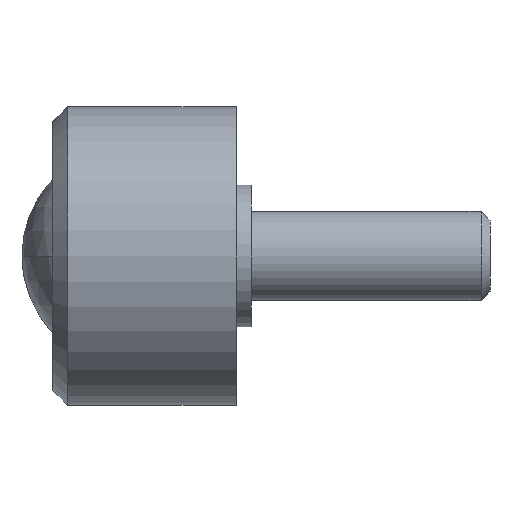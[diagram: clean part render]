
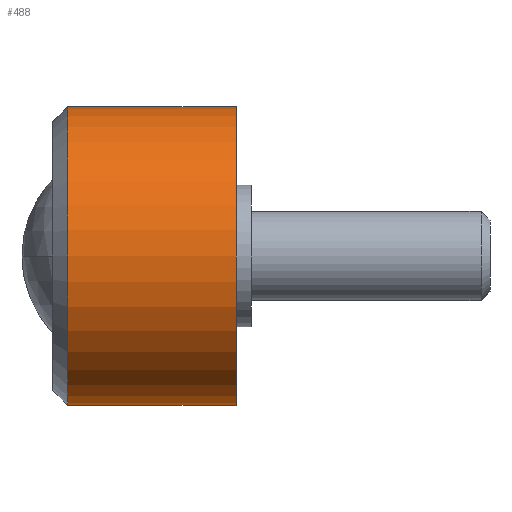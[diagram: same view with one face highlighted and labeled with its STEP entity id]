
A CAD part, left-side view. The second image highlights one B-rep face of the part: STEP entity #488.
In plain terms, the highlighted cylindrical face has radius 20 mm (diameter 40 mm), a partial arc.
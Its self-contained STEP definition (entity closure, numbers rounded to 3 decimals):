
#19 = DIRECTION ( 'NONE',  ( 0., 0., -1. ) ) ;
#44 = VECTOR ( 'NONE', #445, 1000. ) ;
#59 = EDGE_CURVE ( 'NONE', #77, #531, #553, .T. ) ;
#77 = VERTEX_POINT ( 'NONE', #571 ) ;
#83 = EDGE_CURVE ( 'NONE', #312, #77, #384, .T. ) ;
#119 = EDGE_LOOP ( 'NONE', ( #348, #779, #425, #701 ) ) ;
#144 = DIRECTION ( 'NONE',  ( 0., -1., 0. ) ) ;
#151 = EDGE_CURVE ( 'NONE', #468, #531, #519, .T. ) ;
#219 = CARTESIAN_POINT ( 'NONE',  ( 0., 0., -20. ) ) ;
#261 = DIRECTION ( 'NONE',  ( 0., -1., 0. ) ) ;
#272 = CARTESIAN_POINT ( 'NONE',  ( 0., 0., 20. ) ) ;
#301 = FACE_OUTER_BOUND ( 'NONE', #119, .T. ) ;
#312 = VERTEX_POINT ( 'NONE', #569 ) ;
#324 = EDGE_CURVE ( 'NONE', #312, #468, #579, .T. ) ;
#331 = AXIS2_PLACEMENT_3D ( 'NONE', #673, #144, #436 ) ;
#348 = ORIENTED_EDGE ( 'NONE', *, *, #83, .F. ) ;
#356 = AXIS2_PLACEMENT_3D ( 'NONE', #420, #713, #470 ) ;
#384 = LINE ( 'NONE', #272, #628 ) ;
#420 = CARTESIAN_POINT ( 'NONE',  ( 0., 0., 0. ) ) ;
#425 = ORIENTED_EDGE ( 'NONE', *, *, #151, .T. ) ;
#436 = DIRECTION ( 'NONE',  ( 0., 0., 1. ) ) ;
#445 = DIRECTION ( 'NONE',  ( 0., -1., 0. ) ) ;
#456 = DIRECTION ( 'NONE',  ( 0., -1., 0. ) ) ;
#468 = VERTEX_POINT ( 'NONE', #709 ) ;
#470 = DIRECTION ( 'NONE',  ( 0., 0., -1. ) ) ;
#488 = ADVANCED_FACE ( 'NONE', ( #301 ), #595, .T. ) ;
#519 = LINE ( 'NONE', #219, #44 ) ;
#531 = VERTEX_POINT ( 'NONE', #721 ) ;
#553 = CIRCLE ( 'NONE', #589, 20. ) ;
#569 = CARTESIAN_POINT ( 'NONE',  ( 0., 22.6, 20. ) ) ;
#571 = CARTESIAN_POINT ( 'NONE',  ( 0., 0., 20. ) ) ;
#579 = CIRCLE ( 'NONE', #331, 20. ) ;
#589 = AXIS2_PLACEMENT_3D ( 'NONE', #635, #456, #19 ) ;
#595 = CYLINDRICAL_SURFACE ( 'NONE', #356, 20. ) ;
#628 = VECTOR ( 'NONE', #261, 1000. ) ;
#635 = CARTESIAN_POINT ( 'NONE',  ( 0., 0., 0. ) ) ;
#673 = CARTESIAN_POINT ( 'NONE',  ( 0., 22.6, 0. ) ) ;
#701 = ORIENTED_EDGE ( 'NONE', *, *, #59, .F. ) ;
#709 = CARTESIAN_POINT ( 'NONE',  ( 0., 22.6, -20. ) ) ;
#713 = DIRECTION ( 'NONE',  ( 0., -1., 0. ) ) ;
#721 = CARTESIAN_POINT ( 'NONE',  ( 0., 0., -20. ) ) ;
#779 = ORIENTED_EDGE ( 'NONE', *, *, #324, .T. ) ;
